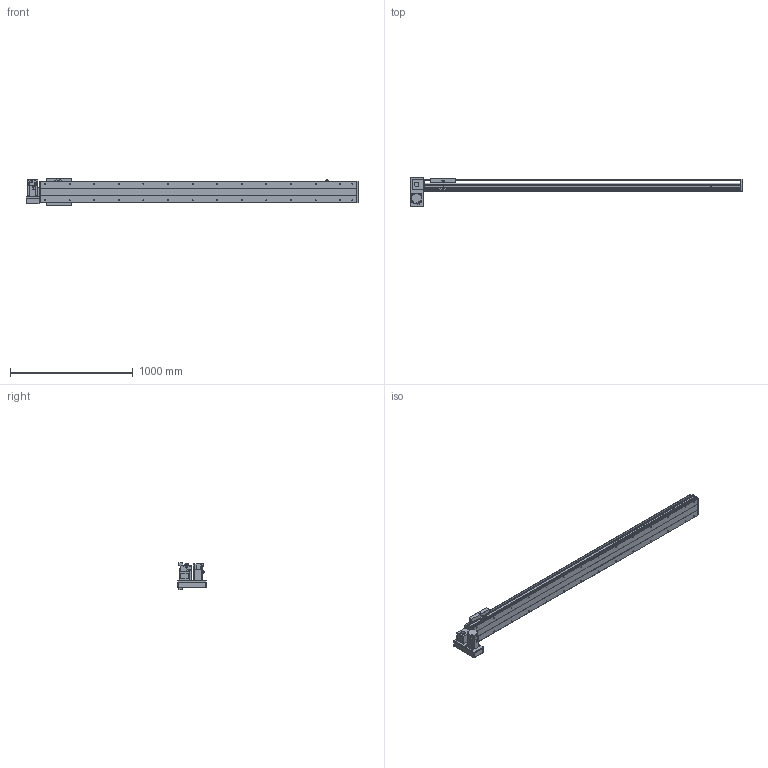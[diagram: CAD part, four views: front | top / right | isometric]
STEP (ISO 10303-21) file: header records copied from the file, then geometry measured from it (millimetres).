
FILE_DESCRIPTION(/* description */ ('STEP AP214'),/* implementation_level */ '2;1');
FILE_NAME(/* name */ 'PBS200-P40-S2200-LD-T75-C1-N(0)',/* time_stamp */ '2022-06-11T08:46:00+02:00',/* author */ ('License CC BY-ND 4.0'),/* organization */ ('CADENAS'),/* preprocessor_version */ 'ST-DEVELOPER v18.102',/* originating_system */ 'PARTsolutions',/* authorisation */ ' ');
FILE_SCHEMA (('AUTOMOTIVE_DESIGN {1 0 10303 214 3 1 1}'));
Length unit declared in the file: millimetre
Products named in the file (7): PBS200-P40-S2200-LD-T75-C1-N(0); PBS200_sensor; PBS200_plant; PBS200_sliser; T75-p1; PBS200T-LD_motors; PBS200-S2200()_body
Assembly tree (8 placements, depth 2):
  PBS200-P40-S2200-LD-T75-C1-N(0)
    PBS200_sensor  x3
    PBS200_plant
    PBS200_sliser
    T75-p1
    PBS200T-LD_motors
    PBS200-S2200()_body
Bounding box: 2700 x 230 x 221 mm (x, y, z)
Volume: 18730456.9 mm3; surface area: 3001068.7 mm2
Topology: 8 solids, 8 shells, 956 faces, 2434 edges, 1584 vertices
Faces by surface type: plane 586, cylinder 310, cone 60
Full cylindrical faces by diameter (mm): 2.459 x6, 3.242 x4, 4.5 x6, 4.917 x4, 5 x6, 6 x7, 6.6 x8, 6.647 x32, 8 x6, 10 x4, 12 x8, 38 x2, 40 x1, 70 x1
Entity records: 25301 total; most frequent: DIRECTION 4471, CARTESIAN_POINT 4300, ORIENTED_EDGE 4054, EDGE_CURVE 2027, AXIS2_PLACEMENT_3D 1579, VERTEX_POINT 1408, LINE 1313, VECTOR 1313
